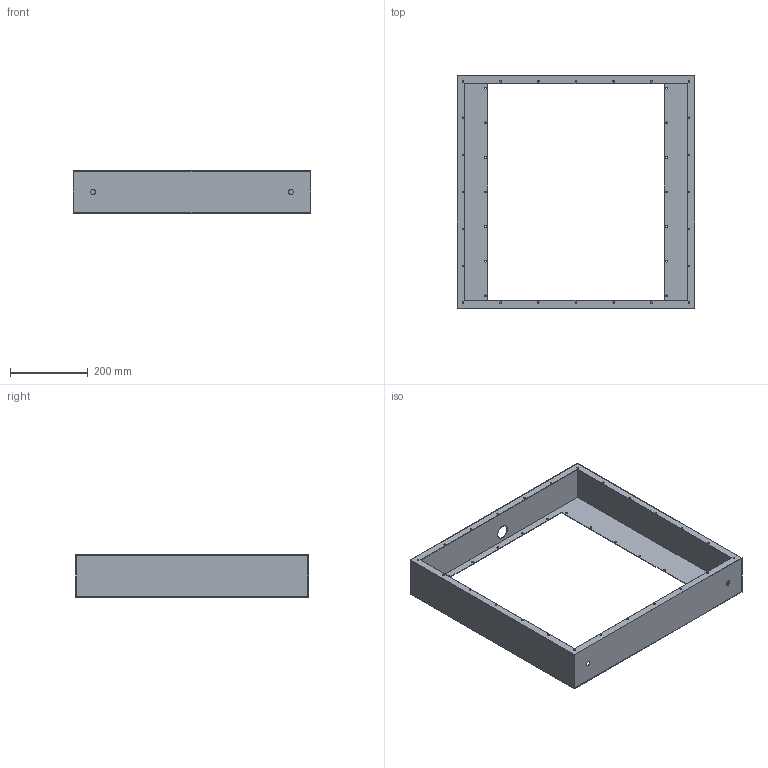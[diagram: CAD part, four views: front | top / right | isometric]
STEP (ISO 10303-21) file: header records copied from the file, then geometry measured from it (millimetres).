
FILE_DESCRIPTION (( 'STEP AP203' ), '1' );
FILE_NAME ('EF 151.STEP', '2013-10-02T13:11:50', ( 'Admin' ), ( '' ), 'SwSTEP 2.0', 'SolidWorks 2012', '' );
FILE_SCHEMA (( 'CONFIG_CONTROL_DESIGN' ));
Length unit declared in the file: inch
Products named in the file (1): EF 151
Bounding box: 609.6 x 596.9 x 107.95 mm (x, y, z)
Volume: 618598.4 mm3; surface area: 819684.8 mm2
Topology: 1 solids, 1 shells, 122 faces, 354 edges, 236 vertices
Faces by surface type: cylinder 102, plane 20
Entity records: 4429 total; most frequent: DIRECTION 804, CARTESIAN_POINT 713, ORIENTED_EDGE 708, EDGE_CURVE 354, AXIS2_PLACEMENT_3D 327, VERTEX_POINT 236, EDGE_LOOP 228, CIRCLE 204
